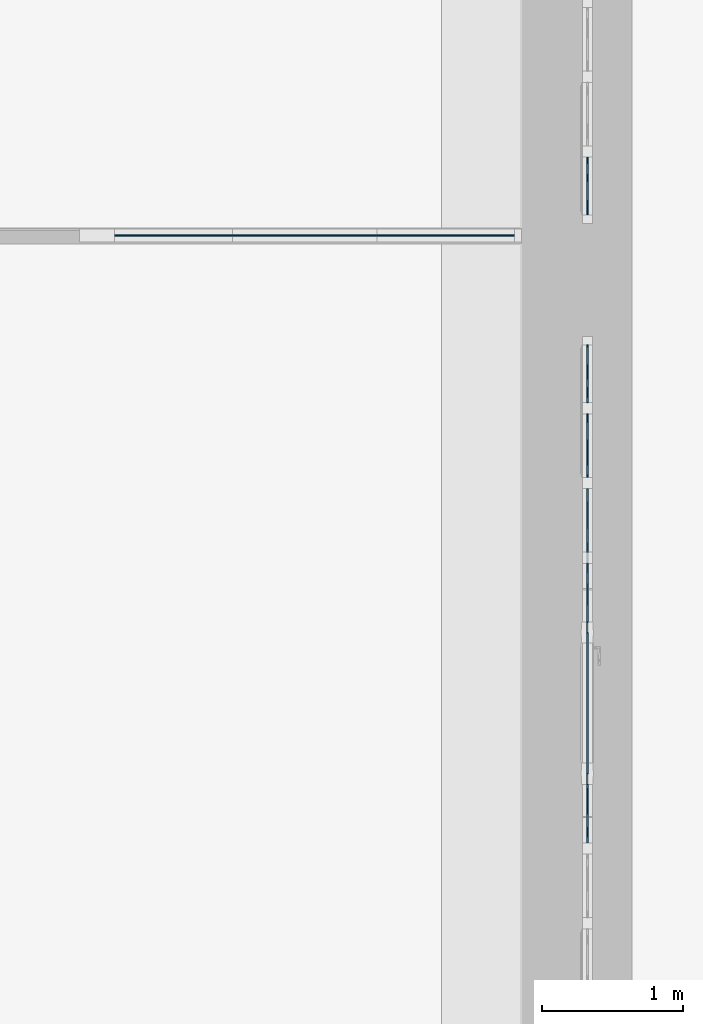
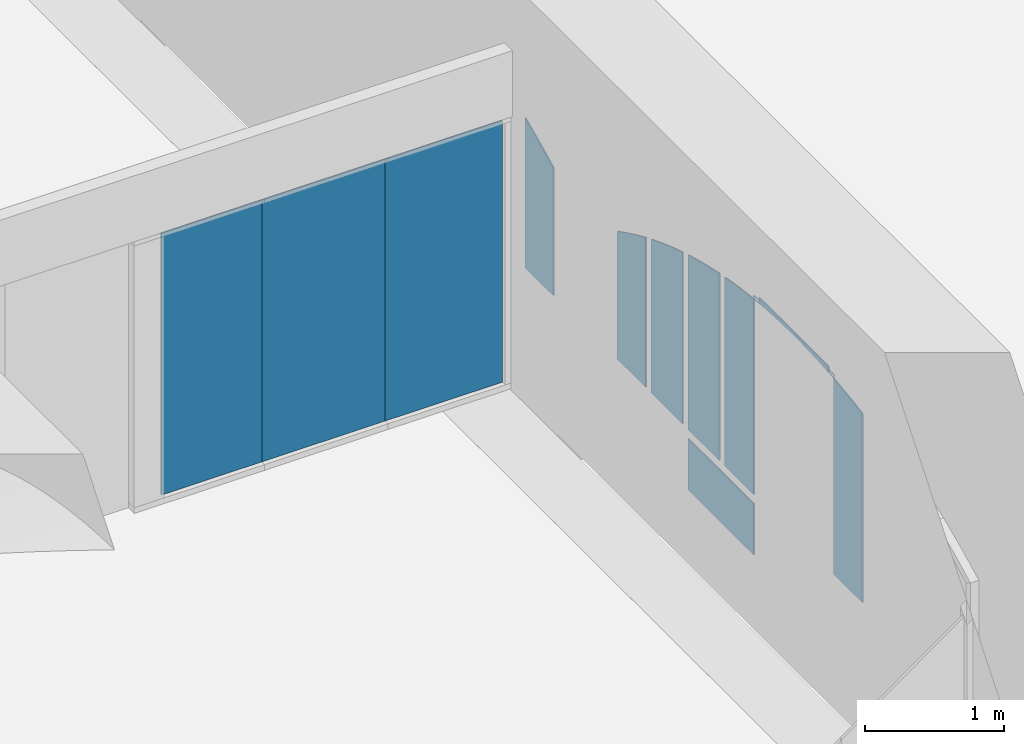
# One storey, part 57 of 88: 11 plates, 3 elements without a shape of their own.
"""IFC2X3 building model written with IfcOpenShell, lengths in millimetres."""

from ifc_helpers import new_model, entity, si_unit, converted_unit, derived_unit, direction, frame, frame_2d, origin, origin_2d_with_axis, place, context, subcontext, project, spatial, polyline, circle_curve, parameter, trimmed, segment, composite_curve, rectangle, outline, extrude, face_set, surface_model, source, transform, mapped, material, type_object, type_shapes, element, aggregate, save


model = new_model("IFC2X3")

# Units and contexts
model_context = context("Model", 3, precision=0.01, world=origin(), true_north=direction((6.123031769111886e-17, 1.0)))
body_context = subcontext(model_context, "Body", "Model", "MODEL_VIEW")
ifc_project = project(units=[si_unit("LENGTHUNIT", "METRE", prefix="MILLI"), si_unit("AREAUNIT", "SQUARE_METRE"), si_unit("VOLUMEUNIT", "CUBIC_METRE"), converted_unit("PLANEANGLEUNIT", "DEGREE", entity("IfcPlaneAngleMeasure", 0.017453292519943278), si_unit("PLANEANGLEUNIT", "RADIAN"), dimensions=[0, 0, 0, 0, 0, 0, 0]), si_unit("MASSUNIT", "GRAM", prefix="KILO"), derived_unit("MASSDENSITYUNIT", [(si_unit("MASSUNIT", "GRAM", prefix="KILO"), 1), (si_unit("LENGTHUNIT", "METRE"), -3)]), derived_unit("IONCONCENTRATIONUNIT", [(si_unit("MASSUNIT", "GRAM", prefix="KILO"), 1), (si_unit("LENGTHUNIT", "METRE"), -3)]), derived_unit("MOMENTOFINERTIAUNIT", [(si_unit("LENGTHUNIT", "METRE"), 4)]), si_unit("TIMEUNIT", "SECOND"), si_unit("FREQUENCYUNIT", "HERTZ"), si_unit("THERMODYNAMICTEMPERATUREUNIT", "DEGREE_CELSIUS"), derived_unit("THERMALTRANSMITTANCEUNIT", [(si_unit("MASSUNIT", "GRAM", prefix="KILO"), 1), (si_unit("THERMODYNAMICTEMPERATUREUNIT", "KELVIN"), -1), (si_unit("TIMEUNIT", "SECOND"), -3)]), derived_unit("THERMALCONDUCTANCEUNIT", [(si_unit("MASSUNIT", "GRAM", prefix="KILO"), 1), (si_unit("THERMODYNAMICTEMPERATUREUNIT", "KELVIN"), -1), (si_unit("TIMEUNIT", "SECOND"), -3), (si_unit("LENGTHUNIT", "METRE"), 1)]), derived_unit("VOLUMETRICFLOWRATEUNIT", [(si_unit("LENGTHUNIT", "METRE", prefix="DECI"), 3), (si_unit("TIMEUNIT", "SECOND"), -1)]), derived_unit("MASSFLOWRATEUNIT", [(si_unit("MASSUNIT", "GRAM", prefix="KILO"), 1), (si_unit("TIMEUNIT", "SECOND"), -1)]), derived_unit("ROTATIONALFREQUENCYUNIT", [(si_unit("TIMEUNIT", "SECOND"), -1)]), si_unit("ELECTRICCURRENTUNIT", "AMPERE"), si_unit("ELECTRICVOLTAGEUNIT", "VOLT"), si_unit("POWERUNIT", "WATT"), si_unit("FORCEUNIT", "NEWTON", prefix="KILO"), si_unit("ILLUMINANCEUNIT", "LUX"), si_unit("LUMINOUSFLUXUNIT", "LUMEN"), si_unit("LUMINOUSINTENSITYUNIT", "CANDELA"), si_unit("ENERGYUNIT", "JOULE"), derived_unit("USERDEFINED", [(si_unit("MASSUNIT", "GRAM", prefix="KILO"), -1), (si_unit("LENGTHUNIT", "METRE"), -2), (si_unit("TIMEUNIT", "SECOND"), 3), (si_unit("LUMINOUSFLUXUNIT", "LUMEN"), 1)]), derived_unit("USERDEFINED", [(si_unit("MASSUNIT", "GRAM", prefix="KILO"), 1), (si_unit("TIMEUNIT", "SECOND"), -3), (si_unit("LENGTHUNIT", "METRE"), 3), (si_unit("ELECTRICCURRENTUNIT", "AMPERE"), -2)]), derived_unit("SOUNDPOWERUNIT", [(si_unit("MASSUNIT", "GRAM", prefix="KILO"), 1), (si_unit("TIMEUNIT", "SECOND"), -3), (si_unit("LENGTHUNIT", "METRE"), 2)]), derived_unit("SOUNDPRESSUREUNIT", [(si_unit("MASSUNIT", "GRAM", prefix="KILO"), 1), (si_unit("LENGTHUNIT", "METRE"), -1), (si_unit("TIMEUNIT", "SECOND"), -2)]), derived_unit("LINEARVELOCITYUNIT", [(si_unit("LENGTHUNIT", "METRE"), 1), (si_unit("TIMEUNIT", "SECOND"), -1)]), si_unit("PRESSUREUNIT", "PASCAL"), derived_unit("USERDEFINED", [(si_unit("MASSUNIT", "GRAM", prefix="KILO"), 1), (si_unit("LENGTHUNIT", "METRE"), -2), (si_unit("TIMEUNIT", "SECOND"), -2)]), derived_unit("LINEARFORCEUNIT", [(si_unit("MASSUNIT", "GRAM", prefix="KILO"), 1), (si_unit("TIMEUNIT", "SECOND"), -2)]), derived_unit("PLANARFORCEUNIT", [(si_unit("MASSUNIT", "GRAM", prefix="KILO"), 1), (si_unit("LENGTHUNIT", "METRE"), -1), (si_unit("TIMEUNIT", "SECOND"), -2)]), derived_unit("SPECIFICHEATCAPACITYUNIT", [(si_unit("THERMODYNAMICTEMPERATUREUNIT", "KELVIN"), -1), (si_unit("LENGTHUNIT", "METRE"), 2), (si_unit("TIMEUNIT", "SECOND"), -2)]), derived_unit("HEATFLUXDENSITYUNIT", [(si_unit("MASSUNIT", "GRAM", prefix="KILO"), 1), (si_unit("TIMEUNIT", "SECOND"), -3)]), derived_unit("HEATINGVALUEUNIT", [(si_unit("LENGTHUNIT", "METRE"), 2), (si_unit("TIMEUNIT", "SECOND"), -2)]), derived_unit("VAPORPERMEABILITYUNIT", [(si_unit("LENGTHUNIT", "METRE"), -1), (si_unit("TIMEUNIT", "SECOND"), 1)]), derived_unit("DYNAMICVISCOSITYUNIT", [(si_unit("MASSUNIT", "GRAM", prefix="KILO"), 1), (si_unit("TIMEUNIT", "SECOND"), -1), (si_unit("LENGTHUNIT", "METRE"), -1)]), derived_unit("THERMALEXPANSIONCOEFFICIENTUNIT", [(si_unit("THERMODYNAMICTEMPERATUREUNIT", "KELVIN"), -1)]), derived_unit("MODULUSOFELASTICITYUNIT", [(si_unit("MASSUNIT", "GRAM", prefix="KILO"), 1), (si_unit("LENGTHUNIT", "METRE"), -1), (si_unit("TIMEUNIT", "SECOND"), -2)]), derived_unit("ISOTHERMALMOISTURECAPACITYUNIT", [(si_unit("MASSUNIT", "GRAM", prefix="KILO"), -1), (si_unit("LENGTHUNIT", "METRE"), 3)]), derived_unit("MOISTUREDIFFUSIVITYUNIT", [(si_unit("TIMEUNIT", "SECOND"), -1), (si_unit("LENGTHUNIT", "METRE"), 2)]), derived_unit("MASSPERLENGTHUNIT", [(si_unit("MASSUNIT", "GRAM", prefix="KILO"), 1), (si_unit("LENGTHUNIT", "METRE"), -1)]), derived_unit("THERMALRESISTANCEUNIT", [(si_unit("MASSUNIT", "GRAM", prefix="KILO"), -1), (si_unit("TIMEUNIT", "SECOND"), 3), (si_unit("THERMODYNAMICTEMPERATUREUNIT", "KELVIN"), 1)]), derived_unit("ACCELERATIONUNIT", [(si_unit("LENGTHUNIT", "METRE"), 1), (si_unit("TIMEUNIT", "SECOND"), -2)]), derived_unit("ANGULARVELOCITYUNIT", [(si_unit("TIMEUNIT", "SECOND"), -1), (si_unit("PLANEANGLEUNIT", "RADIAN"), 1)]), derived_unit("LINEARSTIFFNESSUNIT", [(si_unit("MASSUNIT", "GRAM", prefix="KILO"), 1), (si_unit("TIMEUNIT", "SECOND"), -2)]), derived_unit("WARPINGCONSTANTUNIT", [(si_unit("LENGTHUNIT", "METRE"), 6)]), derived_unit("LINEARMOMENTUNIT", [(si_unit("MASSUNIT", "GRAM", prefix="KILO"), 1), (si_unit("LENGTHUNIT", "METRE"), 1), (si_unit("TIMEUNIT", "SECOND"), -2)]), derived_unit("TORQUEUNIT", [(si_unit("MASSUNIT", "GRAM", prefix="KILO"), 1), (si_unit("LENGTHUNIT", "METRE"), 2), (si_unit("TIMEUNIT", "SECOND"), -2)])], contexts=[model_context])

# Site, building, storey
site_placement = place(None, origin())
site = spatial("IfcSite", under=ifc_project, at=site_placement, Name="Default", CompositionType="ELEMENT")
building_placement = place(site_placement, origin())
building = spatial("IfcBuilding", under=site, at=building_placement, Name="Eesti Rahvusraamatukogu hoone renoveerimise projekteerimistööd", CompositionType="ELEMENT")
storey_placement = place(building_placement, origin())
storey = spatial("IfcBuildingStorey", under=building, at=storey_placement, Name="1. korrus", CompositionType="ELEMENT", Elevation=0.0)

# Curtain wall, plates
curtain_wall_type_1 = type_object("IfcCurtainWallType", Name="Curtain Wall:VLS Klaasvahesein profiilita 38db", PredefinedType="NOTDEFINED")
curtain_wall_1_placement = place(storey_placement, origin())
curtain_wall_1 = element("IfcCurtainWall", 1, at=curtain_wall_1_placement, inside=storey, type_object=curtain_wall_type_1, Name="Curtain Wall:VLS Klaasvahesein profiilita 38db", ObjectType="Curtain Wall:VLS Klaasvahesein profiilita 38db")
ifc_material_1 = material(Name="EST. Klaas. 1x. E-korpus")
plate_type_1 = type_object("IfcPlateType", Name="System Panel:VLS Klaas KAR/LAM 6+1+6", PredefinedType="CURTAIN_PANEL", material=ifc_material_1)
shared_shape_1 = source(origin(), body_context, "Body", "SweptSolid", [
    extrude(rectangle(XDim=13.000000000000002, YDim=834.2819017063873, at=origin_2d_with_axis()), frame((0.0, 0.0, 0.0), z_axis=(0.0, 0.0, 1.0), x_axis=(0.0, 1.0, 0.0)), (0.0, 0.0, 1.0), 2300.0),
])
type_shapes(plate_type_1, [shared_shape_1])
plate_1_placement = place(curtain_wall_1_placement, frame((-45837.859049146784, 30739.376279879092, 50.0)))
plate_1 = element("IfcPlate", 2, at=plate_1_placement, type_object=plate_type_1, material=ifc_material_1, Name="System Panel:VLS Klaas KAR/LAM 6+1+6", ObjectType="System Panel:VLS Klaas KAR/LAM 6+1+6", context=body_context, shape_type="MappedRepresentation", body=[
    mapped(shared_shape_1, transform((0.0, 0.0, 0.0), scale=1.0)),
])
plate_type_2 = type_object("IfcPlateType", Name="System Panel:VLS Klaas KAR/LAM 6+1+6", PredefinedType="CURTAIN_PANEL", material=ifc_material_1)
shared_shape_2 = source(origin(), body_context, "Body", "SweptSolid", [
    extrude(rectangle(XDim=13.000000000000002, YDim=1025.359048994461, at=origin_2d_with_axis()), frame((0.0, 0.0, 0.0), z_axis=(0.0, 0.0, 1.0), x_axis=(0.0, 1.0, 0.0)), (0.0, 0.0, 1.0), 2300.0),
])
type_shapes(plate_type_2, [shared_shape_2])
plate_2_placement = place(curtain_wall_1_placement, frame((-44908.03857379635, 30739.37627987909, 50.0)))
plate_2 = element("IfcPlate", 3, at=plate_2_placement, type_object=plate_type_2, material=ifc_material_1, Name="System Panel:VLS Klaas KAR/LAM 6+1+6", ObjectType="System Panel:VLS Klaas KAR/LAM 6+1+6", context=body_context, shape_type="MappedRepresentation", body=[
    mapped(shared_shape_2, transform((0.0, 0.0, 0.0), scale=1.0)),
])
plate_type_3 = type_object("IfcPlateType", Name="System Panel:VLS Klaas KAR/LAM 6+1+6", PredefinedType="CURTAIN_PANEL", material=ifc_material_1)
shared_shape_3 = source(origin(), body_context, "Body", "SweptSolid", [
    extrude(rectangle(XDim=13.000000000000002, YDim=975.3590492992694, at=origin_2d_with_axis()), frame((0.0, 0.0, 0.0), z_axis=(0.0, 0.0, 1.0), x_axis=(0.0, 1.0, 0.0)), (0.0, 0.0, 1.0), 2300.0),
])
type_shapes(plate_type_3, [shared_shape_3])
plate_3_placement = place(curtain_wall_1_placement, frame((-43907.679524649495, 30739.376279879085, 50.0)))
plate_3 = element("IfcPlate", 4, at=plate_3_placement, type_object=plate_type_3, material=ifc_material_1, Name="System Panel:VLS Klaas KAR/LAM 6+1+6", ObjectType="System Panel:VLS Klaas KAR/LAM 6+1+6", context=body_context, shape_type="MappedRepresentation", body=[
    mapped(shared_shape_3, transform((0.0, 0.0, 0.0), scale=1.0)),
])
aggregate(curtain_wall_1, [plate_1, plate_2, plate_3])

curtain_wall_type_2 = type_object("IfcCurtainWallType", Name="Curtain Wall:Ak-05", PredefinedType="NOTDEFINED")
curtain_wall_2_placement = place(storey_placement, origin())
curtain_wall_2 = element("IfcCurtainWall", 5, at=curtain_wall_2_placement, inside=storey, type_object=curtain_wall_type_2, Name="Curtain Wall:Ak-05", ObjectType="Curtain Wall:Ak-05")
ifc_material_2 = material(Name="EST. Klaas. 3x. Default")
plate_type_4 = type_object("IfcPlateType", Name="System Panel:Peegelaknad 6-16-4-16-4, paneel", PredefinedType="CURTAIN_PANEL", material=ifc_material_2)
shared_shape_4 = source(origin(), body_context, "Body", "SweptSolid", [
    extrude(rectangle(XDim=450.00000000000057, YDim=944.9999999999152, at=frame_2d((0.0, -5.833333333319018), x_axis=(1.0, 0.0))), frame((5.833333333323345, -5.0, 225.0), z_axis=(0.0, 1.0, 0.0), x_axis=(0.0, 0.0, 1.0)), (0.0, 0.0, 1.0), 10.0),
])
type_shapes(plate_type_4, [shared_shape_4])
plate_4_placement = place(curtain_wall_2_placement, frame((-42905.0, 28472.499999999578, 10.0), z_axis=(0.0, 0.0, 1.0), x_axis=(0.0, -1.0, 0.0)))
plate_4 = element("IfcPlate", 6, at=plate_4_placement, type_object=plate_type_4, material=ifc_material_2, Name="System Panel:Peegelaknad 6-16-4-16-4, paneel", ObjectType="System Panel:Peegelaknad 6-16-4-16-4, paneel", context=body_context, shape_type="MappedRepresentation", body=[
    mapped(shared_shape_4, transform((0.0, 0.0, 0.0), scale=1.0)),
])
plate_type_5 = type_object("IfcPlateType", Name="System Panel:Peegelaknad 6-16-4-16-4, paneel", PredefinedType="CURTAIN_PANEL", material=ifc_material_2)
shared_shape_5 = source(origin(), body_context, "Body", "SweptSolid", [
    extrude(outline(composite_curve([segment(polyline([(-610.3301409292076, -205.0), (513.3133718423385, -205.0)]), True, "CONTINUOUS"), segment(trimmed(circle_curve(frame_2d((-4323.610707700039, 2335.0), x_axis=(0.9256428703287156, -0.37839830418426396)), 5463.280566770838), [parameter(354.5293230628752)], [parameter(359.2877436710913)], True, "PARAMETER"), True, "CONTINUOUS"), segment(polyline([(707.3469100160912, 205.0), (-610.3301409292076, 205.0)]), True, "CONTINUOUS"), segment(polyline([(-610.3301409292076, 205.0), (-610.3301409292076, -205.0)]), True, "CONTINUOUS")], self_intersect=False)), frame((0.0, -5.0, 610.3301409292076), z_axis=(0.0, 1.0, 0.0), x_axis=(0.0, 0.0, 1.0)), (0.0, 0.0, 1.0), 10.0),
])
type_shapes(plate_type_5, [shared_shape_5])
plate_5_placement = place(curtain_wall_2_placement, frame((-42905.0, 29760.0, 540.0), z_axis=(0.0, 0.0, 1.0), x_axis=(0.0, -1.0, 0.0)))
plate_5 = element("IfcPlate", 7, at=plate_5_placement, type_object=plate_type_5, material=ifc_material_2, Name="System Panel:Peegelaknad 6-16-4-16-4, paneel", ObjectType="System Panel:Peegelaknad 6-16-4-16-4, paneel", context=body_context, shape_type="MappedRepresentation", body=[
    mapped(shared_shape_5, transform((0.0, 0.0, 0.0), scale=1.0)),
])
plate_type_6 = type_object("IfcPlateType", Name="System Panel:Peegelaknad 6-16-4-16-4, paneel", PredefinedType="CURTAIN_PANEL", material=ifc_material_2)
shared_shape_6 = source(origin(), body_context, "Body", "SweptSolid", [
    extrude(outline(composite_curve([segment(polyline([(-715.3148161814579, -225.0), (635.487411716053, -225.0)]), True, "CONTINUOUS"), segment(trimmed(circle_curve(frame_2d((-4428.595382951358, 1825.0), x_axis=(0.9592847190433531, -0.2824408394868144)), 5463.280566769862), [parameter(354.3672571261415)], [parameter(359.3764184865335)], True, "PARAMETER"), True, "CONTINUOUS"), segment(polyline([(795.1422206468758, 225.0), (-715.3148161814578, 225.0)]), True, "CONTINUOUS"), segment(polyline([(-715.3148161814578, 225.0), (-715.3148161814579, -225.0)]), True, "CONTINUOUS")], self_intersect=False)), frame((0.0, -5.0, 715.3148161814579), z_axis=(0.0, 1.0, 0.0), x_axis=(0.0, 0.0, 1.0)), (0.0, 0.0, 1.0), 10.0),
])
type_shapes(plate_type_6, [shared_shape_6])
plate_6_placement = place(curtain_wall_2_placement, frame((-42905.0, 29250.0, 540.0), z_axis=(0.0, 0.0, 1.0), x_axis=(0.0, -1.0, 0.0)))
plate_6 = element("IfcPlate", 8, at=plate_6_placement, type_object=plate_type_6, material=ifc_material_2, Name="System Panel:Peegelaknad 6-16-4-16-4, paneel", ObjectType="System Panel:Peegelaknad 6-16-4-16-4, paneel", context=body_context, shape_type="MappedRepresentation", body=[
    mapped(shared_shape_6, transform((0.0, 0.0, 0.0), scale=1.0)),
])
plate_type_7 = type_object("IfcPlateType", Name="System Panel:Peegelaknad 6-16-4-16-4, paneel", PredefinedType="CURTAIN_PANEL", material=ifc_material_2)
shared_shape_7 = source(origin(), body_context, "Body", "SweptSolid", [
    extrude(outline(composite_curve([segment(polyline([(-794.6219170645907, -225.0), (739.6716748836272, -225.0)]), True, "CONTINUOUS"), segment(trimmed(circle_curve(frame_2d((-4507.902483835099, 1295.0), x_axis=(0.9824581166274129, -0.18648337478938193)), 5463.2805667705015), [parameter(354.5935648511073)], [parameter(359.45306970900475)], True, "PARAMETER"), True, "CONTINUOUS"), segment(polyline([(849.5721592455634, 225.0), (-794.6219170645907, 225.0)]), True, "CONTINUOUS"), segment(polyline([(-794.6219170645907, 225.0), (-794.6219170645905, -225.0)]), True, "CONTINUOUS")], self_intersect=False)), frame((0.0, -5.0, 794.6219170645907), z_axis=(0.0, 1.0, 0.0), x_axis=(0.0, 0.0, 1.0)), (0.0, 0.0, 1.0), 10.0),
])
type_shapes(plate_type_7, [shared_shape_7])
plate_7_placement = place(curtain_wall_2_placement, frame((-42905.0, 28720.0, 540.0), z_axis=(0.0, 0.0, 1.0), x_axis=(0.0, -1.0, 0.0)))
plate_7 = element("IfcPlate", 9, at=plate_7_placement, type_object=plate_type_7, material=ifc_material_2, Name="System Panel:Peegelaknad 6-16-4-16-4, paneel", ObjectType="System Panel:Peegelaknad 6-16-4-16-4, paneel", context=body_context, shape_type="MappedRepresentation", body=[
    mapped(shared_shape_7, transform((0.0, 0.0, 0.0), scale=1.0)),
])
plate_type_8 = type_object("IfcPlateType", Name="System Panel:Peegelaknad 6-16-4-16-4, paneel", PredefinedType="CURTAIN_PANEL", material=ifc_material_2)
shared_shape_8 = source(origin(), body_context, "Body", "SurfaceModel", [
    surface_model("IfcFaceBasedSurfaceModel", [(-245.0, -5.0, 0.0), (170.0, -5.0, 0.0), (170.0, -5.0, 1750.0), (245.0, -5.0, 1750.0), (245.0, -5.0, 1727.0718621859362), (93.20177957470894, -5.0, 1710.979164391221), (-58.08758672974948, -5.0, 1690.6517865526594), (-151.67863011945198, -5.0, 1675.9125069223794), (-245.0, -5.0, 1659.5524430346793), (-245.0, 5.0, 0.0), (-245.0, 5.0, 1659.5524430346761), (-151.67863011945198, 5.0, 1675.9125069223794), (-58.08758672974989, 5.0, 1690.6517865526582), (93.20177957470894, 5.0, 1710.979164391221), (245.0, 5.0, 1727.071862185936), (245.0, 5.0, 1750.0), (170.0, 5.0, 1750.0), (170.0, 5.0, 0.0)], [face_set([[[0, 1, 2, 3, 4, 5, 6, 7, 8]], [[9, 10, 11, 12, 13, 14, 15, 16, 17]], [[1, 0, 9, 17]], [[2, 1, 17, 16]], [[3, 15, 16, 2]], [[4, 14, 15, 3]], [[5, 4, 14, 13]], [[12, 6, 5, 13]], [[7, 6, 12, 11]], [[10, 8, 7, 11]], [[0, 8, 10, 9]]])]),
])
type_shapes(plate_type_8, [shared_shape_8])
plate_8_placement = place(curtain_wall_2_placement, frame((-42905.0, 28170.0, 540.0), z_axis=(0.0, 0.0, 1.0), x_axis=(0.0, -1.0, 0.0)))
plate_8 = element("IfcPlate", 10, at=plate_8_placement, type_object=plate_type_8, material=ifc_material_2, Name="System Panel:Peegelaknad 6-16-4-16-4, paneel", ObjectType="System Panel:Peegelaknad 6-16-4-16-4, paneel", context=body_context, shape_type="MappedRepresentation", body=[
    mapped(shared_shape_8, transform((0.0, 0.0, 0.0), scale=1.0)),
])
plate_type_9 = type_object("IfcPlateType", Name="System Panel:Peegelaknad 6-16-4-16-4, paneel", PredefinedType="CURTAIN_PANEL", material=ifc_material_2)
shared_shape_9 = source(origin(), body_context, "Body", "SurfaceModel", [
    surface_model("IfcFaceBasedSurfaceModel", [(-170.0, -5.0, 0.0), (245.0, -5.0, 0.0), (245.0, -5.0, 1659.5524430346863), (151.67863011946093, -5.0, 1675.9125069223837), (58.08758672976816, -5.0, 1690.6517865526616), (-93.2017795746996, -5.0, 1710.979164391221), (-245.0, -5.0, 1727.071862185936), (-245.0, -5.0, 1750.0), (-170.0, -5.0, 1750.0), (-170.0, 5.0, 0.0), (245.0, 5.0, 0.0), (245.0, 5.0, 1659.552443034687), (151.67863011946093, 5.0, 1675.9125069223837), (58.08758672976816, 5.0, 1690.6517865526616), (-93.2017795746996, 5.0, 1710.979164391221), (-245.0, 5.0, 1727.071862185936), (-245.0, 5.0, 1750.0), (-170.0, 5.0, 1750.0)], [face_set([[[0, 1, 2, 3, 4, 5, 6, 7, 8]], [[9, 10, 11, 12, 13, 14, 15, 16, 17]], [[1, 0, 9, 10]], [[2, 1, 10, 11]], [[3, 2, 11, 12]], [[13, 4, 3, 12]], [[4, 13, 14, 5]], [[15, 6, 5, 14]], [[7, 16, 15, 6]], [[8, 17, 16, 7]], [[0, 8, 17, 9]]])]),
])
type_shapes(plate_type_9, [shared_shape_9])
plate_9_placement = place(curtain_wall_2_placement, frame((-42905.0, 26680.0, 540.0), z_axis=(0.0, 0.0, 1.0), x_axis=(0.0, -1.0, 0.0)))
plate_9 = element("IfcPlate", 11, at=plate_9_placement, type_object=plate_type_9, material=ifc_material_2, Name="System Panel:Peegelaknad 6-16-4-16-4, paneel", ObjectType="System Panel:Peegelaknad 6-16-4-16-4, paneel", context=body_context, shape_type="MappedRepresentation", body=[
    mapped(shared_shape_9, transform((0.0, 0.0, 0.0), scale=1.0)),
])

# Curtain wall, plate
curtain_wall_3_placement = place(storey_placement, origin())
curtain_wall_3 = element("IfcCurtainWall", 12, at=curtain_wall_3_placement, inside=storey, type_object=curtain_wall_type_2, Name="Curtain Wall:Ak-05", ObjectType="Curtain Wall:Ak-05")
plate_type_10 = type_object("IfcPlateType", Name="System Panel:Peegelaknad 6-16-4-16-4, paneel", PredefinedType="CURTAIN_PANEL", material=ifc_material_2)
shared_shape_10 = source(origin(), body_context, "Body", "SweptSolid", [
    extrude(outline(composite_curve([segment(polyline([(-610.3301409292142, 205.0), (-610.3301409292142, -205.0)]), True, "CONTINUOUS"), segment(polyline([(-610.3301409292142, -205.0), (513.3133718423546, -205.0)]), True, "CONTINUOUS"), segment(trimmed(circle_curve(frame_2d((-4323.610707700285, 2335.0), x_axis=(0.8822747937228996, -0.4707347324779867)), 5463.280566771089), [parameter(0.37681807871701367)], [parameter(5.135238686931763)], True, "PARAMETER"), True, "CONTINUOUS"), segment(polyline([(707.3469100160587, 205.0), (-610.3301409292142, 205.0)]), True, "CONTINUOUS")], self_intersect=False)), frame((0.0, -5.0, 610.3301409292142), z_axis=(0.0, -1.0, 0.0), x_axis=(0.0, 0.0, 1.0)), (0.0, 0.0, -1.0), 10.0),
])
type_shapes(plate_type_10, [shared_shape_10])
plate_10_placement = place(curtain_wall_3_placement, frame((-42905.0, 31090.0, 540.0), z_axis=(0.0, 0.0, 1.0), x_axis=(0.0, -1.0, 0.0)))
plate_10 = element("IfcPlate", 13, at=plate_10_placement, type_object=plate_type_10, material=ifc_material_2, Name="System Panel:Peegelaknad 6-16-4-16-4, paneel", ObjectType="System Panel:Peegelaknad 6-16-4-16-4, paneel", context=body_context, shape_type="MappedRepresentation", body=[
    mapped(shared_shape_10, transform((0.0, 0.0, 0.0), scale=1.0)),
])
aggregate(curtain_wall_3, [plate_10])

# Plate
ifc_material_3 = material(Name="<Unnamed>")
plate_type_11 = type_object("IfcPlateType", Name="System Panel:Peegelaknad 6-16-4-16-4, paneel", PredefinedType="CURTAIN_PANEL", material=ifc_material_3)
shared_shape_11 = source(origin(), body_context, "Body", "SweptSolid", [
    extrude(outline(composite_curve([segment(polyline([(18.907544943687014, -500.34273422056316), (71.61836514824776, -495.5513663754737)]), True, "CONTINUOUS"), segment(polyline([(71.61836514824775, -495.5513663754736), (-18.907544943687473, 500.3427342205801)]), True, "CONTINUOUS"), segment(polyline([(-18.907544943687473, 500.3427342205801), (-71.61836514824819, 495.5513663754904)]), True, "CONTINUOUS"), segment(trimmed(circle_curve(frame_2d((-5444.3702992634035, -494.8885387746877), x_axis=(1.0, 0.0)), 5463.280566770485), [parameter(359.94279949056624)], [parameter(10.444926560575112)], True, "PARAMETER"), False, "CONTINUOUS")], self_intersect=False)), frame((0.0, -5.0, 26.46406890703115), z_axis=(0.0, -1.0, 0.0), x_axis=(0.0905259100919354, 0.0, 0.9958941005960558)), (0.0, 0.0, -1.0), 10.0),
])
type_shapes(plate_type_11, [shared_shape_11])
plate_11_placement = place(curtain_wall_2_placement, frame((-42905.0, 27425.0, 2267.071862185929), z_axis=(0.0, 0.0, 1.0), x_axis=(0.0, -1.0, 0.0)))
plate_11 = element("IfcPlate", 14, at=plate_11_placement, type_object=plate_type_11, material=ifc_material_3, Name="System Panel:Peegelaknad 6-16-4-16-4, paneel", ObjectType="System Panel:Peegelaknad 6-16-4-16-4, paneel", context=body_context, shape_type="MappedRepresentation", body=[
    mapped(shared_shape_11, transform((0.0, 0.0, 0.0), scale=1.0)),
])

aggregate(curtain_wall_2, [plate_4, plate_5, plate_6, plate_7, plate_8, plate_9, plate_11])

save(model, "model.ifc")
